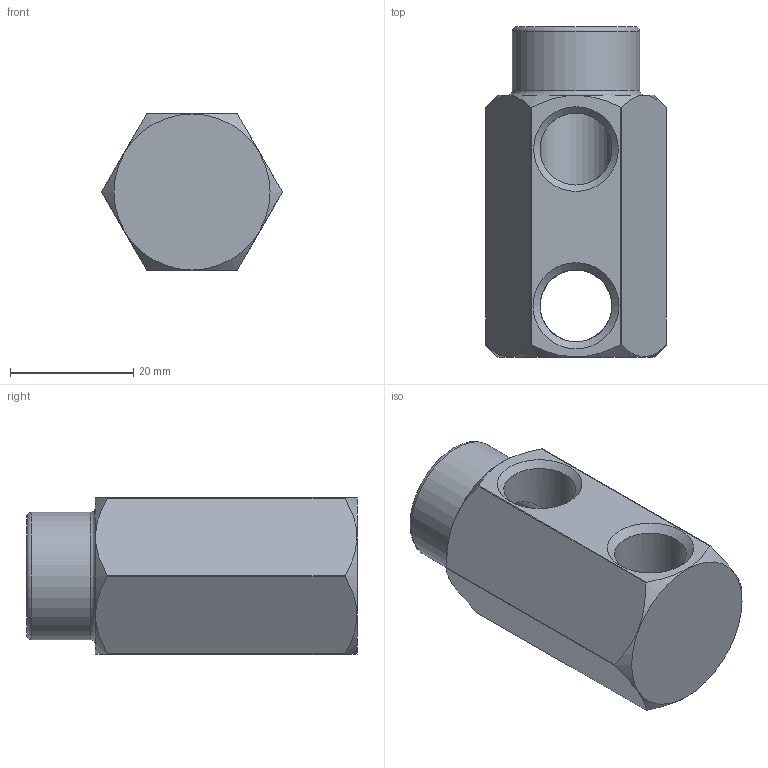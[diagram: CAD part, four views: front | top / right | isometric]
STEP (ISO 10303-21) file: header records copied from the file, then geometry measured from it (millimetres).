
FILE_DESCRIPTION(/* description */ (''),/* implementation_level */ '2;1');
FILE_NAME(/* name */ 'C:/Users/drich/Desktop/141H-4 v2.step',/* time_stamp */ '2020-01-10T20:20:46-06:00',/* author */ (''),/* organization */ (''),/* preprocessor_version */ 'ST-DEVELOPER v18',/* originating_system */ 'Autodesk Translation Framework v8.12.0.6',/* authorisation */ '');
FILE_SCHEMA (('AUTOMOTIVE_DESIGN { 1 0 10303 214 3 1 1 }'));
Length unit declared in the file: inch
Products named in the file (2): 141H-4; 141H-4_1
Assembly tree (1 placements, depth 2):
  141H-4
    141H-4_1
Bounding box: 29.26 x 53.59 x 25.4 mm (x, y, z)
Volume: 20420 mm3; surface area: 7329.8 mm2
Topology: 1 solids, 1 shells, 35 faces, 99 edges, 64 vertices
Faces by surface type: cylinder 13, cone 11, plane 9, torus 2
Full cylindrical faces by diameter (mm): 5.474 x1, 11.668 x4, 20.625 x1
Entity records: 1269 total; most frequent: CARTESIAN_POINT 292, DIRECTION 205, ORIENTED_EDGE 198, EDGE_CURVE 99, AXIS2_PLACEMENT_3D 89, VERTEX_POINT 64, CIRCLE 49, EDGE_LOOP 41
